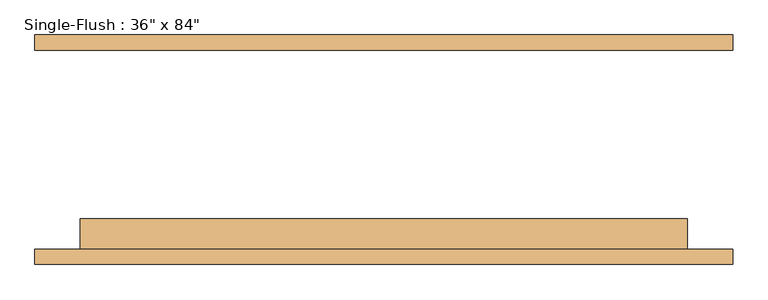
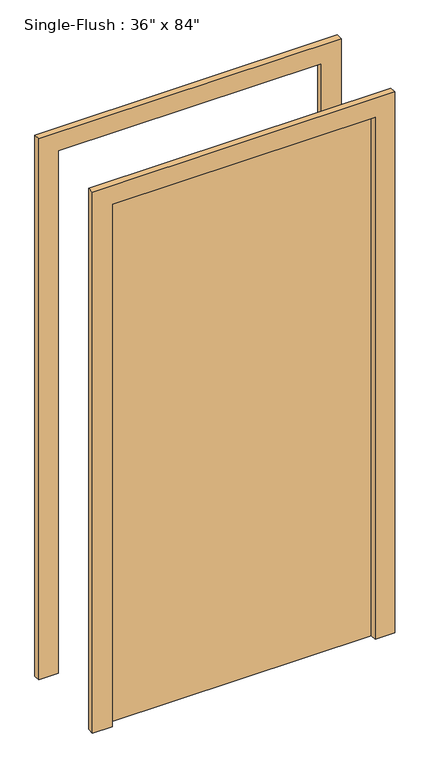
"""IFC4 building model written with IfcOpenShell, lengths in millimetres: door geometry."""

from ifc_helpers import new_model, si_unit, frame, origin, origin_with_axes, place, context, project, spatial, polyline, outline, extrude, source, transform, mapped, element, save


def door_a2bde941(model_context):
    return source(origin(), model_context, "Body", "SweptSolid", [
        extrude(outline(polyline([(2209.8, -584.2), (0.0, -584.2), (0.0, -508.0), (2133.6, -508.0), (2133.6, 508.0), (0.0, 508.0), (0.0, 584.2), (2209.8, 584.2), (2209.8, -584.2)])), frame((0.0, -192.0875, 0.0), z_axis=(0.0, 1.0, 0.0), x_axis=(0.0, 0.0, 1.0)), (0.0, 0.0, 1.0), 25.4),
        extrude(outline(polyline([(2209.8, 584.2), (2209.8, -584.2), (0.0, -584.2), (0.0, -508.0), (2133.6, -508.0), (2133.6, 508.0), (0.0, 508.0), (0.0, 584.2), (2209.8, 584.2)])), frame((0.0, 166.6875, 0.0), z_axis=(0.0, 1.0, 0.0), x_axis=(0.0, 0.0, 1.0)), (0.0, 0.0, 1.0), 25.4),
        extrude(outline(polyline([(508.0, -115.8875), (508.0, -166.6875), (-508.0, -166.6875), (-508.0, -115.8875), (508.0, -115.8875)])), origin_with_axes(), (0.0, 0.0, 1.0), 2133.6),
    ])


if __name__ == "__main__":
    model = new_model("IFC4")
    model_context = context("Model", 3, world=origin())
    ifc_project = project(units=[si_unit("LENGTHUNIT", "METRE", prefix="MILLI")], contexts=[model_context])
    site = spatial("IfcSite", under=ifc_project)
    building = spatial("IfcBuilding", under=site)
    placement = place(None, origin())
    door_shape = door_a2bde941(model_context)
    element("IfcDoor", 1, ObjectType="Single-Flush : 36\" x 84\"", at=placement, inside=building, context=model_context, shape_type="MappedRepresentation", body=[
        mapped(door_shape, transform((0.0, 0.0, 0.0), x_axis=(1.0, 0.0, 0.0), y_axis=(0.0, 1.0, 0.0), z_axis=(0.0, 0.0, 1.0))),
    ])
    save(model, "model.ifc")
